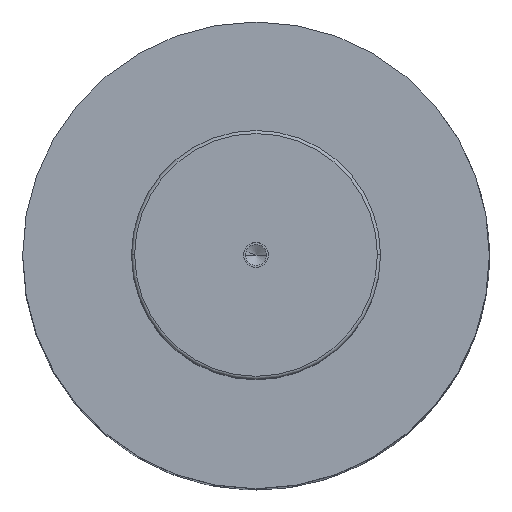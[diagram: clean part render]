
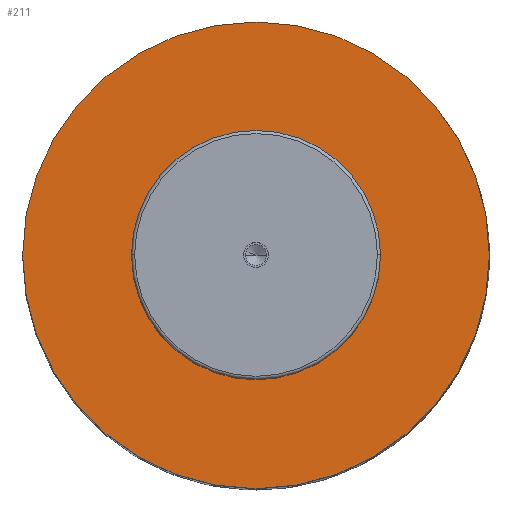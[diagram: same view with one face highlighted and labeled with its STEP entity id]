
A CAD part, top view. The second image highlights one B-rep face of the part: STEP entity #211.
In plain terms, the highlighted planar face has unit normal (0, 0, 1).
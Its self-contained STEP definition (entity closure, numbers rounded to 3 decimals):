
#109=PLANE('',#1266);
#138=FACE_BOUND('',#359,.T.);
#139=FACE_BOUND('',#360,.T.);
#211=ADVANCED_FACE('',(#138,#139),#109,.T.);
#359=EDGE_LOOP('',(#571,#572));
#360=EDGE_LOOP('',(#573,#574));
#451=CIRCLE('',#1260,40.);
#452=CIRCLE('',#1262,40.);
#453=CIRCLE('',#1264,75.);
#454=CIRCLE('',#1265,75.);
#571=ORIENTED_EDGE('',*,*,#970,.F.);
#572=ORIENTED_EDGE('',*,*,#971,.F.);
#573=ORIENTED_EDGE('',*,*,#969,.T.);
#574=ORIENTED_EDGE('',*,*,#967,.T.);
#856=VERTEX_POINT('',#1837);
#857=VERTEX_POINT('',#1839);
#858=VERTEX_POINT('',#1845);
#859=VERTEX_POINT('',#1846);
#967=EDGE_CURVE('',#857,#856,#451,.T.);
#969=EDGE_CURVE('',#856,#857,#452,.T.);
#970=EDGE_CURVE('',#858,#859,#453,.T.);
#971=EDGE_CURVE('',#859,#858,#454,.T.);
#1260=AXIS2_PLACEMENT_3D('',#1838,#1456,#1457);
#1262=AXIS2_PLACEMENT_3D('',#1842,#1461,#1462);
#1264=AXIS2_PLACEMENT_3D('',#1844,#1465,#1466);
#1265=AXIS2_PLACEMENT_3D('',#1847,#1467,#1468);
#1266=AXIS2_PLACEMENT_3D('',#1848,#1469,#1470);
#1456=DIRECTION('',(0.,0.,-1.));
#1457=DIRECTION('',(0.,1.,0.));
#1461=DIRECTION('',(0.,0.,-1.));
#1462=DIRECTION('',(0.,-1.,0.));
#1465=DIRECTION('',(0.,0.,-1.));
#1466=DIRECTION('',(0.,1.,0.));
#1467=DIRECTION('',(0.,0.,-1.));
#1468=DIRECTION('',(0.,-1.,0.));
#1469=DIRECTION('',(0.,0.,1.));
#1470=DIRECTION('',(0.,-1.,0.));
#1837=CARTESIAN_POINT('',(-40.,0.,232.));
#1838=CARTESIAN_POINT('',(0.,0.,232.));
#1839=CARTESIAN_POINT('',(40.,0.,232.));
#1842=CARTESIAN_POINT('',(0.,0.,232.));
#1844=CARTESIAN_POINT('',(0.,0.,232.));
#1845=CARTESIAN_POINT('',(75.,0.,232.));
#1846=CARTESIAN_POINT('',(-75.,0.,232.));
#1847=CARTESIAN_POINT('',(0.,0.,232.));
#1848=CARTESIAN_POINT('',(0.,0.,232.));
